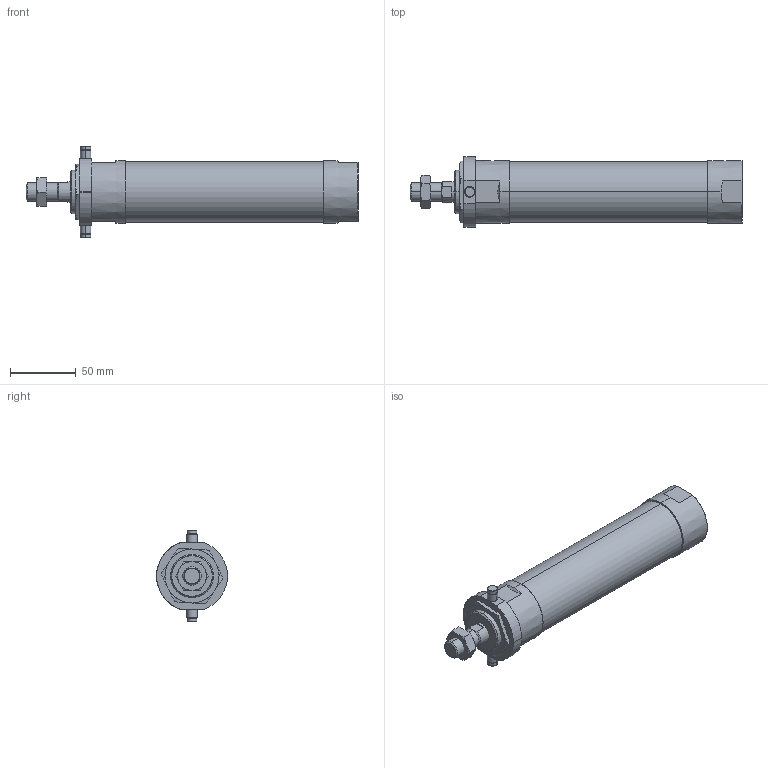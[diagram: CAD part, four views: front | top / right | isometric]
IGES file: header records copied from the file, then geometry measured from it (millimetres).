
Start section: SolidWorks IGES file using analytic representation for surfaces
Global section: file name: C:\Users\Toshiba\Desktop\JGND2-40-100-T.IGS; native system: SolidWorks 2014; preprocessor: SolidWorks 2014; author: Toshiba; date: 160804.111057; units: millimetre
Bounding box: 253 x 54 x 70 mm (x, y, z)
Surface area: 47126 mm2 (no closed solid volume)
Topology: 0 solids, 0 shells, 116 faces, 2138 edges, 2134 vertices
Faces by surface type: bspline 62, revolution 54
